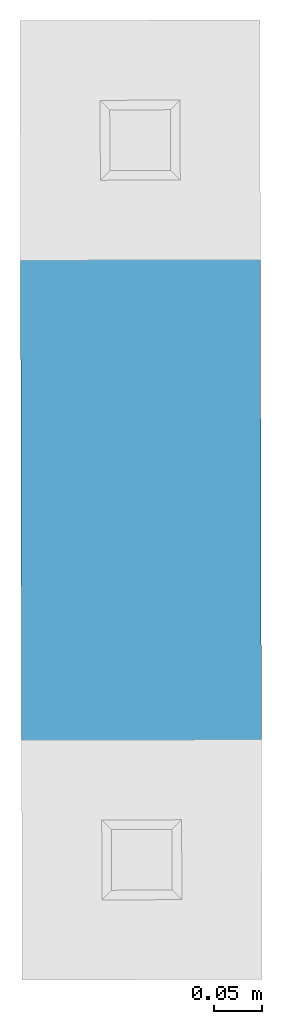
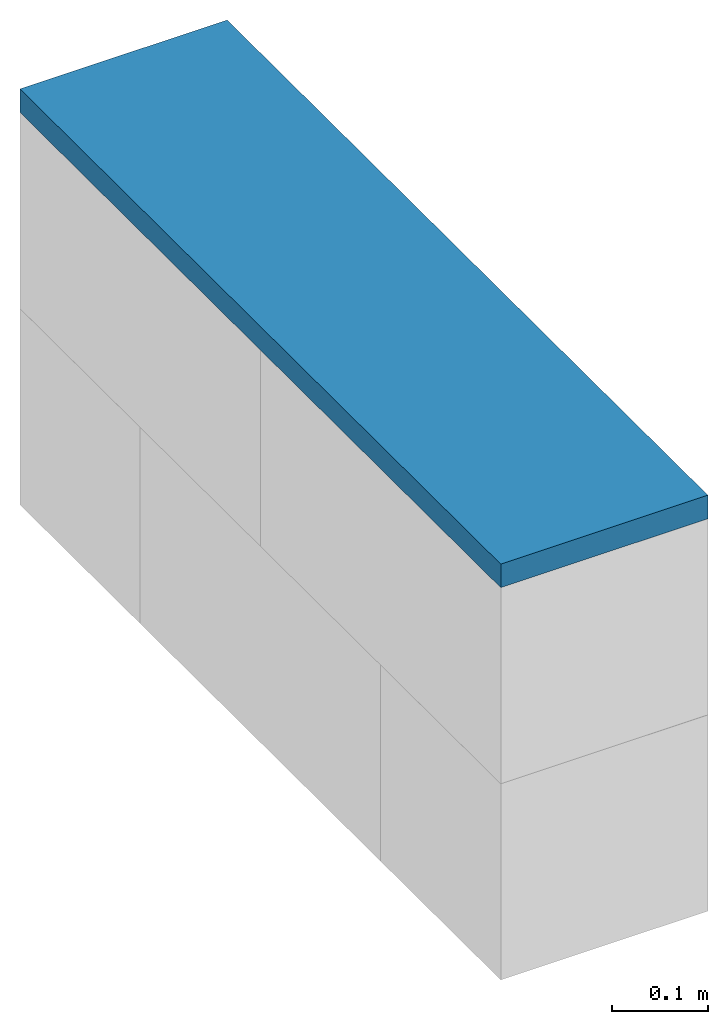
# One storey, incomplete: 1 wall.
"""IFC4 building model written with IfcOpenShell, lengths in centimetres."""

from ifc_helpers import new_model, entity, si_unit, converted_unit, direction, frame, origin, place, context, subcontext, project, spatial, indexed_curve, outline, extrude, material, type_object, element, save


model = new_model("IFC4")

# Units and contexts
model_context = context("Model", 3, precision=0.001, world=origin(), true_north=direction((0.0, 1.0)))
body_context = subcontext(model_context, "Body", "Model", "MODEL_VIEW")
ifc_project = project(units=[si_unit("LENGTHUNIT", "METRE", prefix="CENTI"), si_unit("AREAUNIT", "SQUARE_METRE"), si_unit("VOLUMEUNIT", "CUBIC_METRE"), converted_unit("PLANEANGLEUNIT", "DEGREE", entity("IfcPlaneAngleMeasure", 0.017453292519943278), si_unit("PLANEANGLEUNIT", "RADIAN"), dimensions=[0, 0, 0, 0, 0, 0, 0])], contexts=[model_context])

# Site, building, storey
site_placement = place(None, origin())
site = spatial("IfcSite", under=ifc_project, at=site_placement, Name="Default", CompositionType="ELEMENT")
building_placement = place(site_placement, origin())
building = spatial("IfcBuilding", under=site, at=building_placement, CompositionType="ELEMENT")
storey_placement = place(building_placement, frame((0.0, 0.0, -312.0)))
storey = spatial("IfcBuildingStorey", under=building, at=storey_placement, Name="B1__ABOVE Slab", CompositionType="ELEMENT", Elevation=-312.0000000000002)

# Wall
ifc_material = material(Name="_STRUCTURE__Wood Solid")
wall_type = type_object("IfcWallType", Name="Columns : wll_s__DECOUPLING BEAM__Rectangular__wp : Wood", PredefinedType="SOLIDWALL", material=ifc_material)
wall_placement = place(storey_placement, frame((2304.585835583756, 1207.217231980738, 289.5000000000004), z_axis=(0.0, 0.0, 1.0), x_axis=(0.0, 1.0, 0.0)))
element("IfcWall", 1, at=wall_placement, inside=storey, type_object=wall_type, material=ifc_material, Name="Columns : wll_s__DECOUPLING BEAM__Rectangular__wp : Wood", PredefinedType="SOLIDWALL", context=body_context, shape_type="SweptSolid", body=[
    extrude(outline(indexed_curve([(-50.000000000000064, -12.50000000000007), (50.000000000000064, -12.500000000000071), (50.000000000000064, 12.50000000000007), (-50.000000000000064, 12.500000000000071), (-50.000000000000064, -12.50000000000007)], self_intersect=False)), frame((50.027520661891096, -12.610541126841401, 0.0), z_axis=(0.0, 0.0, 1.0), x_axis=(-0.9999975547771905, -0.0022114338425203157, 0.0)), (0.0, 0.0, 1.0), 2.999999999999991),
])

save(model, "model.ifc")
